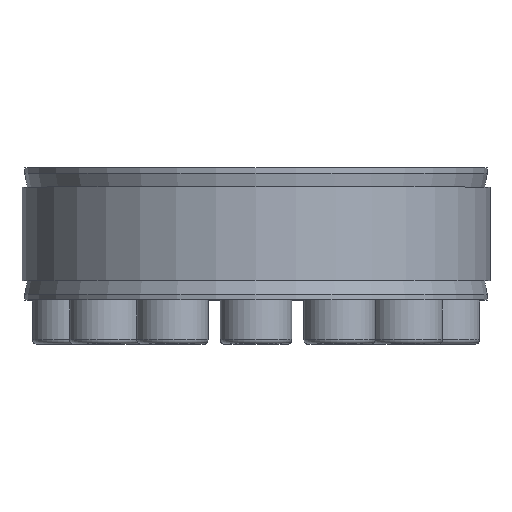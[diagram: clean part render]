
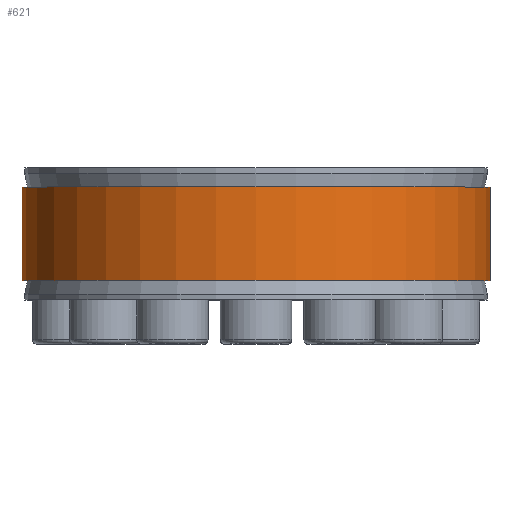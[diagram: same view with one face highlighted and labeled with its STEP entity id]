
A CAD part, top view. The second image highlights one B-rep face of the part: STEP entity #621.
In plain terms, the highlighted cylindrical face has radius 42.5 mm (diameter 85 mm), a partial arc.
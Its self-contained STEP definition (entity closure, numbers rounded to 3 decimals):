
#621 = ADVANCED_FACE( '', ( #1206 ), #1207, .T. );
#1206 = FACE_OUTER_BOUND( '', #2199, .T. );
#1207 = CYLINDRICAL_SURFACE( '', #2200, 42.5 );
#2199 = EDGE_LOOP( '', ( #3285, #3286, #3287, #3288 ) );
#2200 = AXIS2_PLACEMENT_3D( '', #3289, #3290, #3291 );
#3285 = ORIENTED_EDGE( '', *, *, #5552, .F. );
#3286 = ORIENTED_EDGE( '', *, *, #5553, .T. );
#3287 = ORIENTED_EDGE( '', *, *, #5554, .T. );
#3288 = ORIENTED_EDGE( '', *, *, #5555, .F. );
#3289 = CARTESIAN_POINT( '', ( 0., -60., 0. ) );
#3290 = DIRECTION( '', ( 0., -1., 0. ) );
#3291 = DIRECTION( '', ( 0., 0., 1. ) );
#5552 = EDGE_CURVE( '', #6209, #6210, #6211, .F. );
#5553 = EDGE_CURVE( '', #6209, #6212, #6213, .T. );
#5554 = EDGE_CURVE( '', #6212, #6214, #6215, .F. );
#5555 = EDGE_CURVE( '', #6210, #6214, #6216, .T. );
#6209 = VERTEX_POINT( '', #7141 );
#6210 = VERTEX_POINT( '', #7142 );
#6211 = LINE( '', #7143, #7144 );
#6212 = VERTEX_POINT( '', #7145 );
#6213 = CIRCLE( '', #7146, 42.5 );
#6214 = VERTEX_POINT( '', #7147 );
#6215 = LINE( '', #7148, #7149 );
#6216 = CIRCLE( '', #7150, 42.5 );
#7141 = CARTESIAN_POINT( '', ( 0.708, 8.5, -42.494 ) );
#7142 = CARTESIAN_POINT( '', ( 0.708, -8.5, -42.494 ) );
#7143 = CARTESIAN_POINT( '', ( 0.708, -60., -42.494 ) );
#7144 = VECTOR( '', #8852, 1000. );
#7145 = CARTESIAN_POINT( '', ( -0.708, 8.5, -42.494 ) );
#7146 = AXIS2_PLACEMENT_3D( '', #8853, #8854, #8855 );
#7147 = CARTESIAN_POINT( '', ( -0.708, -8.5, -42.494 ) );
#7148 = CARTESIAN_POINT( '', ( -0.708, -60., -42.494 ) );
#7149 = VECTOR( '', #8856, 1000. );
#7150 = AXIS2_PLACEMENT_3D( '', #8857, #8858, #8859 );
#8852 = DIRECTION( '', ( 0., 1., 0. ) );
#8853 = CARTESIAN_POINT( '', ( 0., 8.5, 0. ) );
#8854 = DIRECTION( '', ( 0., -1., 0. ) );
#8855 = DIRECTION( '', ( 0., 0., -1. ) );
#8856 = DIRECTION( '', ( 0., 1., 0. ) );
#8857 = CARTESIAN_POINT( '', ( 0., -8.5, 0. ) );
#8858 = DIRECTION( '', ( 0., -1., 0. ) );
#8859 = DIRECTION( '', ( 0., 0., -1. ) );
